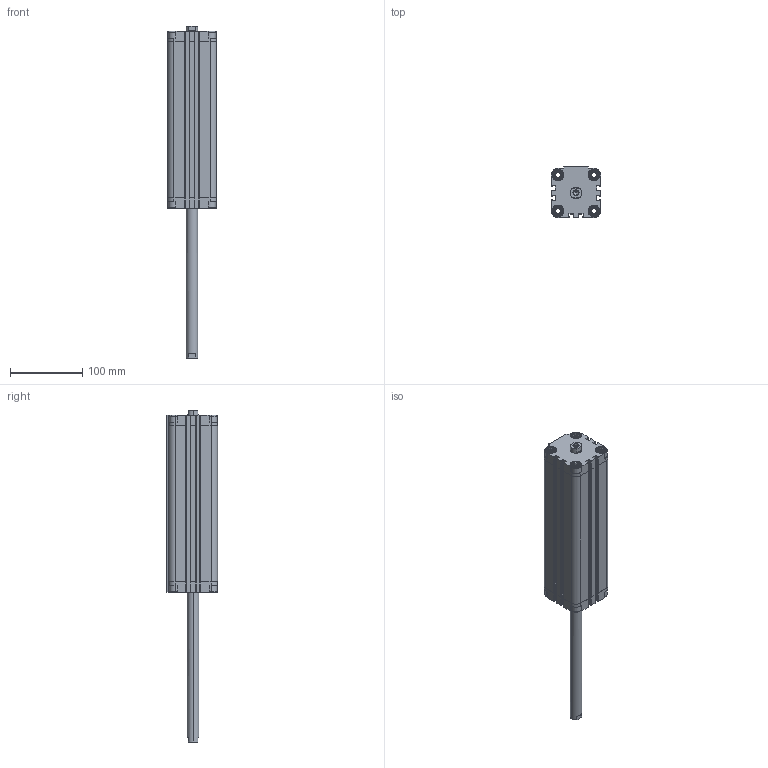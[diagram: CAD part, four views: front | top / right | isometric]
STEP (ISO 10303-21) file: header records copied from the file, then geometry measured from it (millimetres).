
FILE_DESCRIPTION (( 'STEP AP203' ), '1' );
FILE_NAME ('CDVU50-200F-P.STEP', '2020-07-24T18:37:34', ( '' ), ( '' ), 'SwSTEP 2.0', 'SolidWorks 2019', '' );
FILE_SCHEMA (( 'CONFIG_CONTROL_DESIGN' ));
Length unit declared in the file: millimetre
Products named in the file (1): CDVU50-200F-P
Bounding box: 68 x 71 x 460.5 mm (x, y, z)
Volume: 702749.3 mm3; surface area: 191905.9 mm2
Topology: 2 solids, 2 shells, 722 faces, 1928 edges, 1244 vertices
Faces by surface type: plane 422, cylinder 236, cone 48, torus 16
Entity records: 22639 total; most frequent: CARTESIAN_POINT 4463, ORIENTED_EDGE 3840, DIRECTION 3726, EDGE_CURVE 1920, AXIS2_PLACEMENT_3D 1275, VERTEX_POINT 1244, LINE 1176, VECTOR 1176
